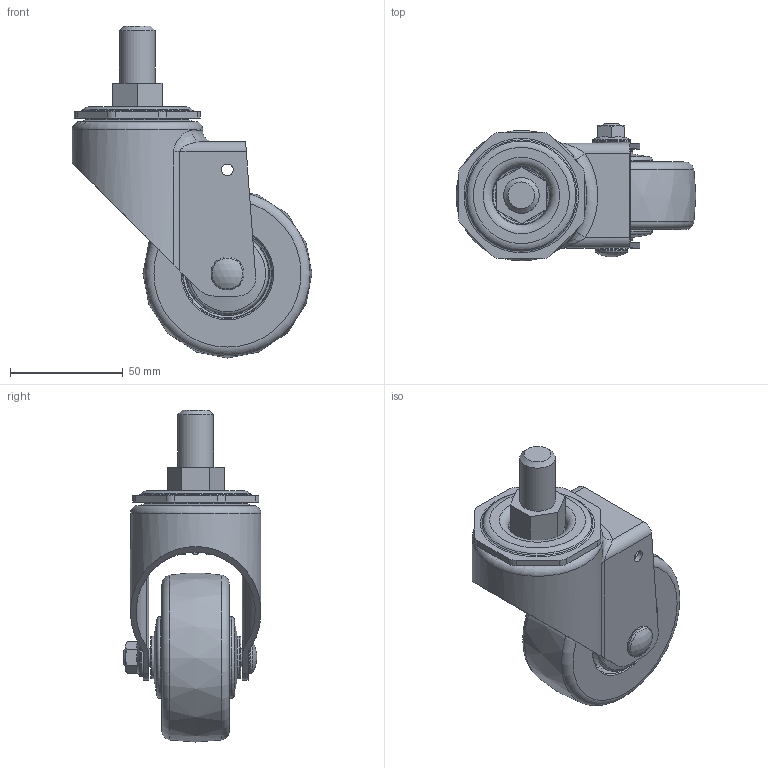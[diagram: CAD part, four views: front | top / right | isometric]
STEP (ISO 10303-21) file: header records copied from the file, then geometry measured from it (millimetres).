
FILE_DESCRIPTION(/* description */ (''),/* implementation_level */ '2;1');
FILE_NAME(/* name */ 'E:\홈페이지용3d\STEP\PL-75-ASS-LUD.stp',/* time_stamp */ '2015-03-19T11:38:27+09:00',/* author */ ('장용하'),/* organization */ (''),/* preprocessor_version */ 'ST-DEVELOPER v15.6',/* originating_system */ 'Autodesk Inventor 2015',/* authorisation */ '');
FILE_SCHEMA (('AUTOMOTIVE_DESIGN { 1 0 10303 214 3 1 1 }'));
Length unit declared in the file: centimetre
Products named in the file (1): PL-75-ASS-LUD
Bounding box: 106.48 x 61.24 x 147.4 mm (x, y, z)
Volume: 199141.3 mm3; surface area: 63476.7 mm2
Topology: 1 solids, 1 shells, 350 faces, 807 edges, 494 vertices
Faces by surface type: plane 139, cylinder 114, torus 47, cone 44, bspline 5, sphere 1
Full cylindrical faces by diameter (mm): 5.2 x2, 8 x2, 12.084 x2, 12.5 x1, 14.6 x1, 15.875 x1, 17 x1, 24.667 x2, 32.333 x2, 34 x1, 36 x1, 41 x1, 53 x1, 58 x1
Entity records: 10430 total; most frequent: CARTESIAN_POINT 2629, DIRECTION 1598, ORIENTED_EDGE 1400, EDGE_CURVE 700, AXIS2_PLACEMENT_3D 657, EDGE_LOOP 488, VERTEX_POINT 482, FACE_OUTER_BOUND 350
